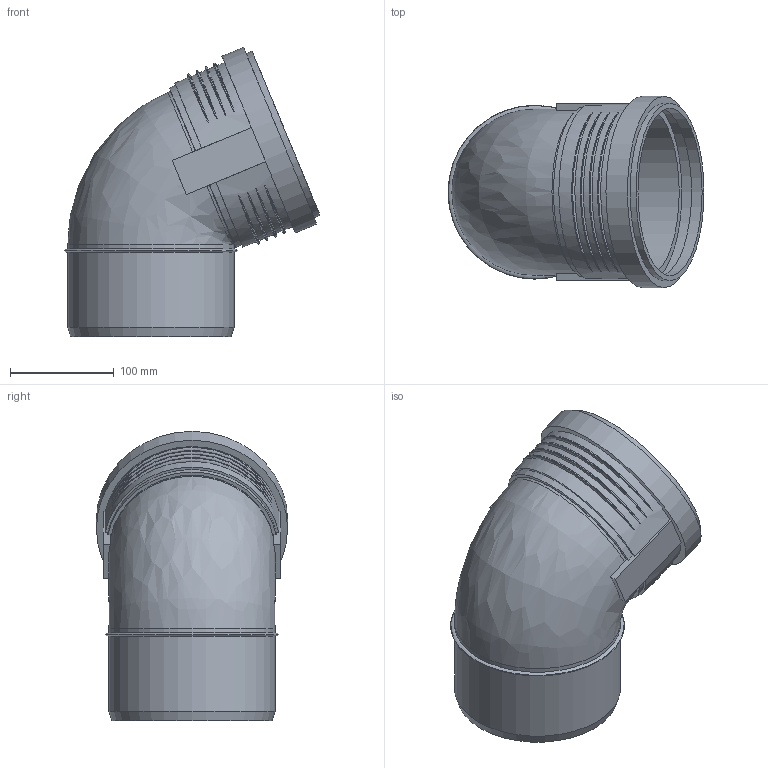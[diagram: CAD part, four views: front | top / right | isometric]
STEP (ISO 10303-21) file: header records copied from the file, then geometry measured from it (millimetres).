
FILE_DESCRIPTION(/* description */ (''),/* implementation_level */ '2;1');
FILE_NAME(/* name */ 'Z:\Geberit\Export\NewStep\390723.stp',/* time_stamp */ '2014-04-02T08:16:40+02:00',/* author */ ('ML'),/* organization */ (''),/* preprocessor_version */ 'ST-DEVELOPER v15.2',/* originating_system */ 'Autodesk Inventor 2014',/* authorisation */ '');
FILE_SCHEMA (('AUTOMOTIVE_DESIGN { 1 0 10303 214 3 1 1 }'));
Length unit declared in the file: millimetre
Products named in the file (3): 861599; 861560; 390723
Bounding box: 246.95 x 184.5 x 279.1 mm (x, y, z)
Volume: 761742.2 mm3; surface area: 312871.3 mm2
Topology: 2 solids, 2 shells, 68 faces, 162 edges, 109 vertices
Faces by surface type: torus 28, plane 19, cylinder 18, cone 2, bspline 1
Full cylindrical faces by diameter (mm): 149.85 x2, 150.65 x1, 160.25 x4, 161.7 x2, 171.3 x1, 174.9 x1, 184.5 x1
Entity records: 2726 total; most frequent: CARTESIAN_POINT 1150, DIRECTION 290, ORIENTED_EDGE 278, EDGE_CURVE 139, AXIS2_PLACEMENT_3D 127, VERTEX_POINT 106, EDGE_LOOP 103, STYLED_ITEM 70
